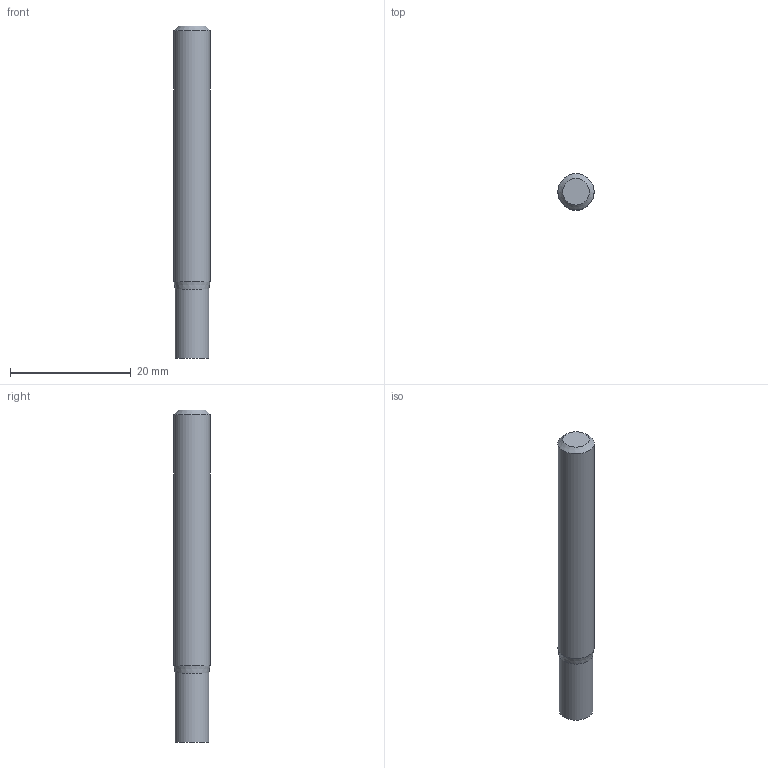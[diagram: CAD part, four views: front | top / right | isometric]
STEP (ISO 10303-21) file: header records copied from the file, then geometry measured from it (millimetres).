
FILE_DESCRIPTION((''),'2;1');
FILE_NAME('C:\Users\nsx150\AppData\Local\Temp\Mastercam 2021\98T1Q6BTT1\TEMP.step','2021-10-21T14:48:55',(''),(''),'STEP Write','Mastercam 2021 ... CNC Software, Inc.','');
FILE_SCHEMA(('AUTOMOTIVE_DESIGN'));
Length unit declared in the file: millimetre
Products named in the file (1): None
Bounding box: 6 x 6 x 55 mm (x, y, z)
Volume: 1505.7 mm3; surface area: 1114.4 mm2
Topology: 2 solids, 2 shells, 8 faces, 10 edges, 6 vertices
Faces by surface type: plane 4, cylinder 2, cone 2
Full cylindrical faces by diameter (mm): 5.6 x1, 6 x1
Entity records: 190 total; most frequent: DIRECTION 32, CARTESIAN_POINT 22, AXIS2_PLACEMENT_3D 16, ORIENTED_EDGE 12, EDGE_LOOP 12, STYLED_ITEM 11, ADVANCED_FACE 8, VERTEX_POINT 6
